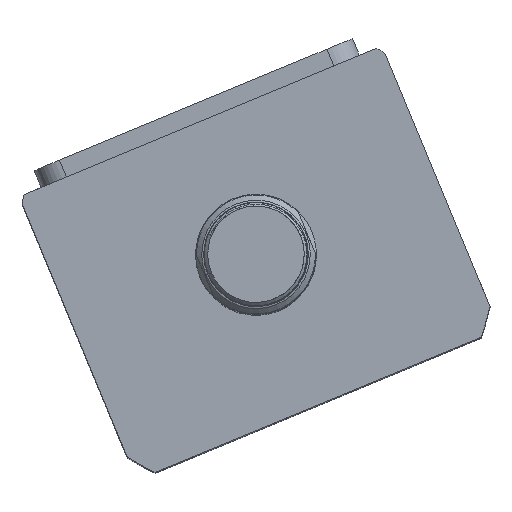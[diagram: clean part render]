
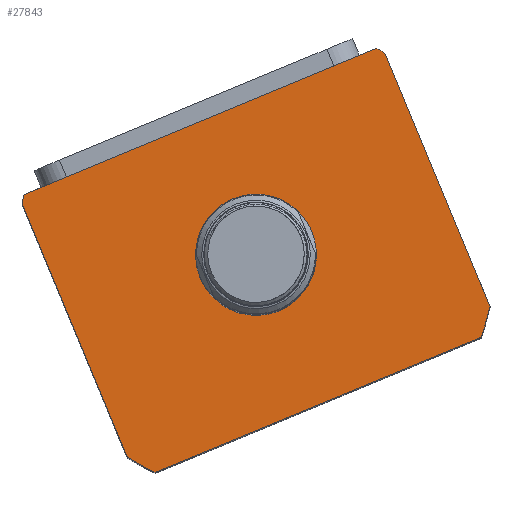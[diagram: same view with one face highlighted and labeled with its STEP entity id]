
A CAD part, top view. The second image highlights one B-rep face of the part: STEP entity #27843.
In plain terms, the highlighted planar face has unit normal (0, 0, 1) as drawn and (0, 0, -1) by its records, which use the part's own axes.
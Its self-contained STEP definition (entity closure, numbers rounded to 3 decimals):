
#452 = CIRCLE ( 'NONE', #19717, 17.5 ) ;
#579 = VERTEX_POINT ( 'NONE', #5193 ) ;
#933 = ORIENTED_EDGE ( 'NONE', *, *, #27443, .F. ) ;
#978 = DIRECTION ( 'NONE',  ( 0., 1., 0. ) ) ;
#986 = DIRECTION ( 'NONE',  ( 0., 0., 1. ) ) ;
#1142 = EDGE_LOOP ( 'NONE', ( #14763, #6270 ) ) ;
#1447 = DIRECTION ( 'NONE',  ( 0., 0., 1. ) ) ;
#2216 = DIRECTION ( 'NONE',  ( 0., 0., 1. ) ) ;
#2403 = DIRECTION ( 'NONE',  ( -1., 0., 0. ) ) ;
#2564 = CARTESIAN_POINT ( 'NONE',  ( 57., -37.265, 0. ) ) ;
#2885 = CARTESIAN_POINT ( 'NONE',  ( 0., 2.5, 0. ) ) ;
#3607 = LINE ( 'NONE', #5600, #20946 ) ;
#3904 = CIRCLE ( 'NONE', #11306, 17.5 ) ;
#4228 = LINE ( 'NONE', #24331, #27266 ) ;
#4583 = CARTESIAN_POINT ( 'NONE',  ( -51.198, -44.5, 0. ) ) ;
#4632 = VERTEX_POINT ( 'NONE', #8925 ) ;
#4921 = EDGE_CURVE ( 'NONE', #4632, #24285, #3904, .T. ) ;
#5106 = DIRECTION ( 'NONE',  ( 1., 0., 0. ) ) ;
#5193 = CARTESIAN_POINT ( 'NONE',  ( 51.198, -44.5, 0. ) ) ;
#5364 = VERTEX_POINT ( 'NONE', #2564 ) ;
#5369 = CARTESIAN_POINT ( 'NONE',  ( 0., 2.5, 0. ) ) ;
#5462 = EDGE_CURVE ( 'NONE', #20174, #27459, #4228, .T. ) ;
#5498 = EDGE_CURVE ( 'NONE', #27459, #19824, #20168, .T. ) ;
#5600 = CARTESIAN_POINT ( 'NONE',  ( -57., -44.5, 0. ) ) ;
#5883 = EDGE_CURVE ( 'NONE', #5364, #9986, #11014, .T. ) ;
#5922 = CARTESIAN_POINT ( 'NONE',  ( -57., 42.265, 0. ) ) ;
#6270 = ORIENTED_EDGE ( 'NONE', *, *, #24762, .T. ) ;
#6585 = CARTESIAN_POINT ( 'NONE',  ( 55.374, 44.5, 0. ) ) ;
#6620 = EDGE_CURVE ( 'NONE', #24343, #17228, #11337, .T. ) ;
#6942 = DIRECTION ( 'NONE',  ( 0., 0., 1. ) ) ;
#6991 = ORIENTED_EDGE ( 'NONE', *, *, #23329, .F. ) ;
#7329 = CARTESIAN_POINT ( 'NONE',  ( -55.374, 44.5, 0. ) ) ;
#7557 = DIRECTION ( 'NONE',  ( 1., 0., 0. ) ) ;
#7619 = ORIENTED_EDGE ( 'NONE', *, *, #14033, .F. ) ;
#8054 = DIRECTION ( 'NONE',  ( 0., 0., 1. ) ) ;
#8925 = CARTESIAN_POINT ( 'NONE',  ( 17.5, 2.5, 0. ) ) ;
#9083 = AXIS2_PLACEMENT_3D ( 'NONE', #14517, #1447, #16691 ) ;
#9986 = VERTEX_POINT ( 'NONE', #15012 ) ;
#10855 = ORIENTED_EDGE ( 'NONE', *, *, #6620, .F. ) ;
#11014 = LINE ( 'NONE', #11875, #12389 ) ;
#11306 = AXIS2_PLACEMENT_3D ( 'NONE', #2885, #18128, #5106 ) ;
#11337 = LINE ( 'NONE', #15283, #17141 ) ;
#11683 = ORIENTED_EDGE ( 'NONE', *, *, #5883, .F. ) ;
#11875 = CARTESIAN_POINT ( 'NONE',  ( 57., 44.5, 0. ) ) ;
#12039 = EDGE_LOOP ( 'NONE', ( #7619, #11683, #933, #20633, #21969, #13883, #6991, #10855 ) ) ;
#12389 = VECTOR ( 'NONE', #978, 1000. ) ;
#12400 = CARTESIAN_POINT ( 'NONE',  ( -57., -37.265, 0. ) ) ;
#13564 = AXIS2_PLACEMENT_3D ( 'NONE', #19929, #6942, #22101 ) ;
#13635 = DIRECTION ( 'NONE',  ( 0., -1., 0. ) ) ;
#13788 = CIRCLE ( 'NONE', #9083, 69.5 ) ;
#13883 = ORIENTED_EDGE ( 'NONE', *, *, #5462, .F. ) ;
#14033 = EDGE_CURVE ( 'NONE', #9986, #24343, #13788, .T. ) ;
#14067 = CARTESIAN_POINT ( 'NONE',  ( 0., 2.5, 0. ) ) ;
#14517 = CARTESIAN_POINT ( 'NONE',  ( 0., 2.5, 0. ) ) ;
#14763 = ORIENTED_EDGE ( 'NONE', *, *, #4921, .T. ) ;
#15012 = CARTESIAN_POINT ( 'NONE',  ( 57., 42.265, 0. ) ) ;
#15283 = CARTESIAN_POINT ( 'NONE',  ( -57., 44.5, 0. ) ) ;
#15584 = AXIS2_PLACEMENT_3D ( 'NONE', #21029, #8054, #23181 ) ;
#16248 = DIRECTION ( 'NONE',  ( 1., 0., 0. ) ) ;
#16691 = DIRECTION ( 'NONE',  ( 1., 0., 0. ) ) ;
#17141 = VECTOR ( 'NONE', #2403, 1000. ) ;
#17228 = VERTEX_POINT ( 'NONE', #7329 ) ;
#17451 = DIRECTION ( 'NONE',  ( 1., 0., 0. ) ) ;
#17976 = AXIS2_PLACEMENT_3D ( 'NONE', #28119, #2216, #17451 ) ;
#18128 = DIRECTION ( 'NONE',  ( 0., 0., 1. ) ) ;
#18625 = DIRECTION ( 'NONE',  ( 1., 0., 0. ) ) ;
#19717 = AXIS2_PLACEMENT_3D ( 'NONE', #14067, #986, #16248 ) ;
#19824 = VERTEX_POINT ( 'NONE', #4583 ) ;
#19929 = CARTESIAN_POINT ( 'NONE',  ( 0., 2.5, 0. ) ) ;
#20168 = CIRCLE ( 'NONE', #20956, 69.5 ) ;
#20174 = VERTEX_POINT ( 'NONE', #5922 ) ;
#20528 = DIRECTION ( 'NONE',  ( 0., 0., 1. ) ) ;
#20633 = ORIENTED_EDGE ( 'NONE', *, *, #22181, .F. ) ;
#20946 = VECTOR ( 'NONE', #18625, 1000. ) ;
#20956 = AXIS2_PLACEMENT_3D ( 'NONE', #5369, #20528, #7557 ) ;
#21029 = CARTESIAN_POINT ( 'NONE',  ( 0., 2.5, 0. ) ) ;
#21643 = FACE_OUTER_BOUND ( 'NONE', #12039, .T. ) ;
#21673 = CARTESIAN_POINT ( 'NONE',  ( -17.5, 2.5, 0. ) ) ;
#21969 = ORIENTED_EDGE ( 'NONE', *, *, #5498, .F. ) ;
#22101 = DIRECTION ( 'NONE',  ( 1., 0., 0. ) ) ;
#22181 = EDGE_CURVE ( 'NONE', #19824, #579, #3607, .T. ) ;
#22260 = CIRCLE ( 'NONE', #13564, 69.5 ) ;
#23181 = DIRECTION ( 'NONE',  ( 1., 0., 0. ) ) ;
#23329 = EDGE_CURVE ( 'NONE', #17228, #20174, #22260, .T. ) ;
#24285 = VERTEX_POINT ( 'NONE', #21673 ) ;
#24331 = CARTESIAN_POINT ( 'NONE',  ( -57., 44.5, 0. ) ) ;
#24343 = VERTEX_POINT ( 'NONE', #6585 ) ;
#24360 = CIRCLE ( 'NONE', #15584, 69.5 ) ;
#24762 = EDGE_CURVE ( 'NONE', #24285, #4632, #452, .T. ) ;
#26688 = FACE_BOUND ( 'NONE', #1142, .T. ) ;
#27266 = VECTOR ( 'NONE', #13635, 1000. ) ;
#27443 = EDGE_CURVE ( 'NONE', #579, #5364, #24360, .T. ) ;
#27459 = VERTEX_POINT ( 'NONE', #12400 ) ;
#27843 = ADVANCED_FACE ( 'NONE', ( #26688, #21643 ), #28196, .F. ) ;
#28119 = CARTESIAN_POINT ( 'NONE',  ( 0., 0., 0. ) ) ;
#28196 = PLANE ( 'NONE',  #17976 ) ;
